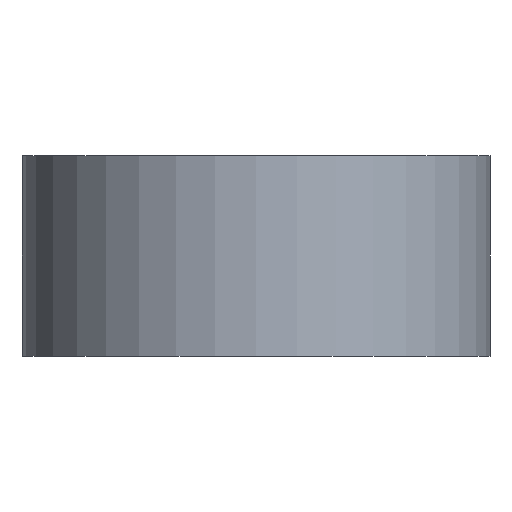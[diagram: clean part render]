
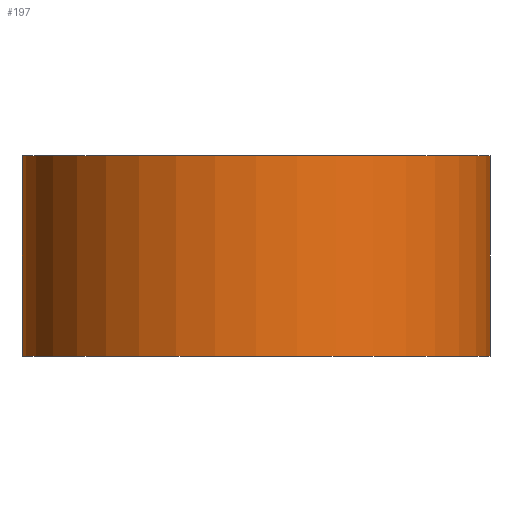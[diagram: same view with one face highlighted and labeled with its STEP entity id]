
A CAD part, front view. The second image highlights one B-rep face of the part: STEP entity #197.
In plain terms, the highlighted cylindrical face has radius 7 mm (diameter 14 mm), a partial arc.
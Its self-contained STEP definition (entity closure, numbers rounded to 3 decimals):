
#37=FACE_OUTER_BOUND('',#53,.T.);
#53=EDGE_LOOP('',(#171,#172,#173,#174));
#65=LINE('',#343,#77);
#68=LINE('',#348,#80);
#77=VECTOR('',#287,10.);
#80=VECTOR('',#292,10.);
#89=CIRCLE('',#228,7.);
#92=CIRCLE('',#235,7.);
#102=VERTEX_POINT('',#328);
#103=VERTEX_POINT('',#330);
#107=VERTEX_POINT('',#342);
#108=VERTEX_POINT('',#346);
#122=EDGE_CURVE('',#102,#103,#89,.T.);
#128=EDGE_CURVE('',#107,#103,#65,.T.);
#131=EDGE_CURVE('',#102,#108,#68,.T.);
#132=EDGE_CURVE('',#107,#108,#92,.T.);
#171=ORIENTED_EDGE('',*,*,#131,.T.);
#172=ORIENTED_EDGE('',*,*,#132,.F.);
#173=ORIENTED_EDGE('',*,*,#128,.T.);
#174=ORIENTED_EDGE('',*,*,#122,.F.);
#186=CYLINDRICAL_SURFACE('',#234,7.);
#197=ADVANCED_FACE('',(#37),#186,.T.);
#228=AXIS2_PLACEMENT_3D('',#331,#274,#275);
#234=AXIS2_PLACEMENT_3D('',#349,#293,#294);
#235=AXIS2_PLACEMENT_3D('',#350,#295,#296);
#274=DIRECTION('center_axis',(0.,0.,-1.));
#275=DIRECTION('ref_axis',(1.,0.,0.));
#287=DIRECTION('',(0.,0.,-1.));
#292=DIRECTION('',(0.,0.,1.));
#293=DIRECTION('center_axis',(0.,0.,1.));
#294=DIRECTION('ref_axis',(-1.,0.,0.));
#295=DIRECTION('center_axis',(0.,0.,1.));
#296=DIRECTION('ref_axis',(-1.,0.,0.));
#328=CARTESIAN_POINT('',(14.,0.,-2.));
#330=CARTESIAN_POINT('',(0.,0.,-2.));
#331=CARTESIAN_POINT('Origin',(7.,0.,-2.));
#342=CARTESIAN_POINT('',(0.,0.,4.));
#343=CARTESIAN_POINT('',(0.,0.,0.));
#346=CARTESIAN_POINT('',(14.,0.,4.));
#348=CARTESIAN_POINT('',(14.,0.,0.));
#349=CARTESIAN_POINT('Origin',(7.,0.,0.));
#350=CARTESIAN_POINT('Origin',(7.,0.,4.));
